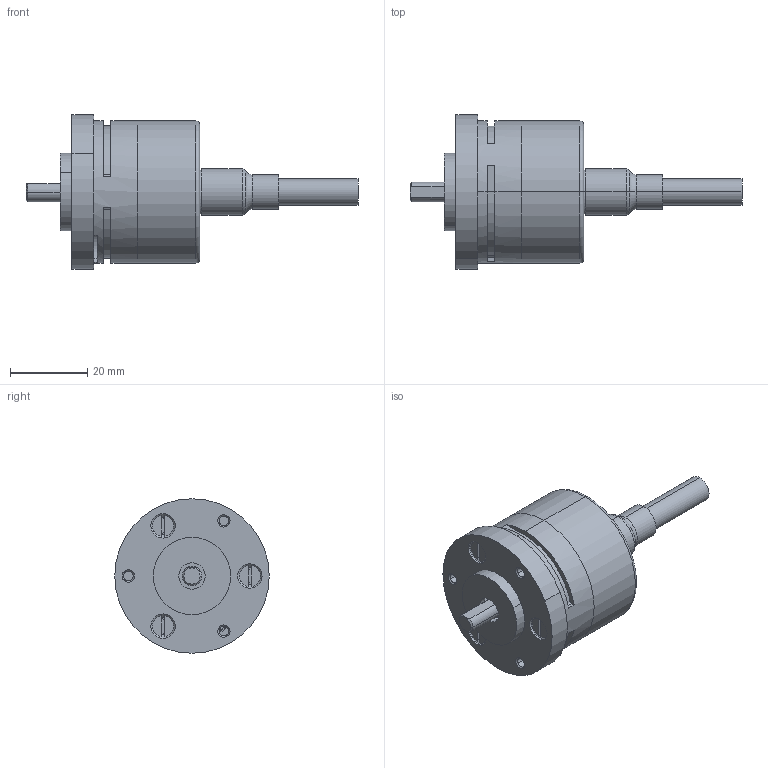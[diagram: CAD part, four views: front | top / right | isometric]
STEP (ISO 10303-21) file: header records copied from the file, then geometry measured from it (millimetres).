
FILE_DESCRIPTION (( 'STEP AP214' ), '1' );
FILE_NAME ('3700.A2X1.XXXX.STEP', '2008-11-25T08:01:04', ( 'admin' ), ( 'Fritz Kübler GmbH' ), 'SwSTEP 2.0', 'SolidWorks 2008', '' );
FILE_SCHEMA (( 'AUTOMOTIVE_DESIGN' ));
Length unit declared in the file: millimetre
Products named in the file (1): 3700.A2X1.XXXX
Bounding box: 86 x 40 x 40 mm (x, y, z)
Volume: 20790.6 mm3; surface area: 20379.8 mm2
Topology: 9 solids, 9 shells, 559 faces, 1326 edges, 801 vertices
Faces by surface type: cylinder 235, plane 138, torus 88, cone 46, bspline 27, sphere 25
Entity records: 23220 total; most frequent: CARTESIAN_POINT 4020, DIRECTION 2930, ORIENTED_EDGE 2606, EDGE_CURVE 1303, AXIS2_PLACEMENT_3D 1242, VERTEX_POINT 791, CIRCLE 709, EDGE_LOOP 608
